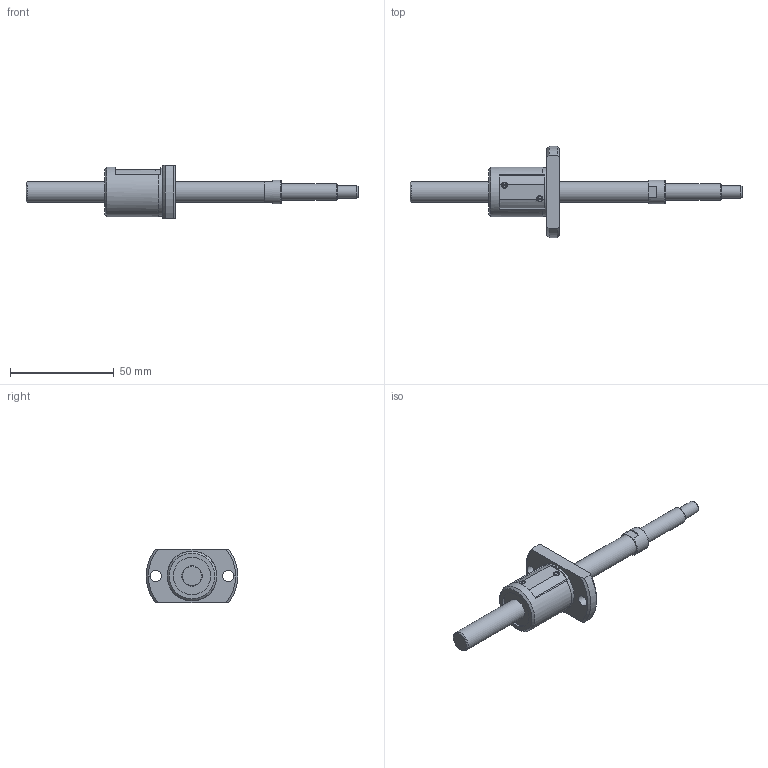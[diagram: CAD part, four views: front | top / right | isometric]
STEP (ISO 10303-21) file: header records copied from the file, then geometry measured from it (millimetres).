
FILE_DESCRIPTION(/* description */ ('STEP AP214'),/* implementation_level */ '2;1');
FILE_NAME(/* name */ 'SG1005-110R160C5A0X(38)',/* time_stamp */ '2026-07-24T15:15:57+02:00',/* author */ ('License CC BY-ND 4.0'),/* organization */ ('CADENAS'),/* preprocessor_version */ 'ST-DEVELOPER v20',/* originating_system */ 'PARTsolutions',/* authorisation */ ' ');
FILE_SCHEMA (('AUTOMOTIVE_DESIGN {1 0 10303 214 3 1 1}'));
Length unit declared in the file: millimetre
Products named in the file (3): SG1005-110R160C5A0X(38); SG1005-110R160C5A_shaft; SG1005 C5_nut
Assembly tree (2 placements, depth 2):
  SG1005-110R160C5A0X(38)
    SG1005-110R160C5A_shaft
    SG1005 C5_nut
Bounding box: 160 x 44 x 26 mm (x, y, z)
Volume: 26838 mm3; surface area: 10981.6 mm2
Topology: 2 solids, 2 shells, 72 faces, 177 edges, 116 vertices
Faces by surface type: plane 35, cylinder 23, cone 13, torus 1
Full cylindrical faces by diameter (mm): 5.5 x2, 6 x1, 8 x1, 10 x2, 11.5 x1, 18 x2, 23.5 x1, 24 x1
Entity records: 2057 total; most frequent: CARTESIAN_POINT 387, DIRECTION 346, ORIENTED_EDGE 292, EDGE_CURVE 146, AXIS2_PLACEMENT_3D 143, VERTEX_POINT 106, EDGE_LOOP 106, FACE_BOUND 106
